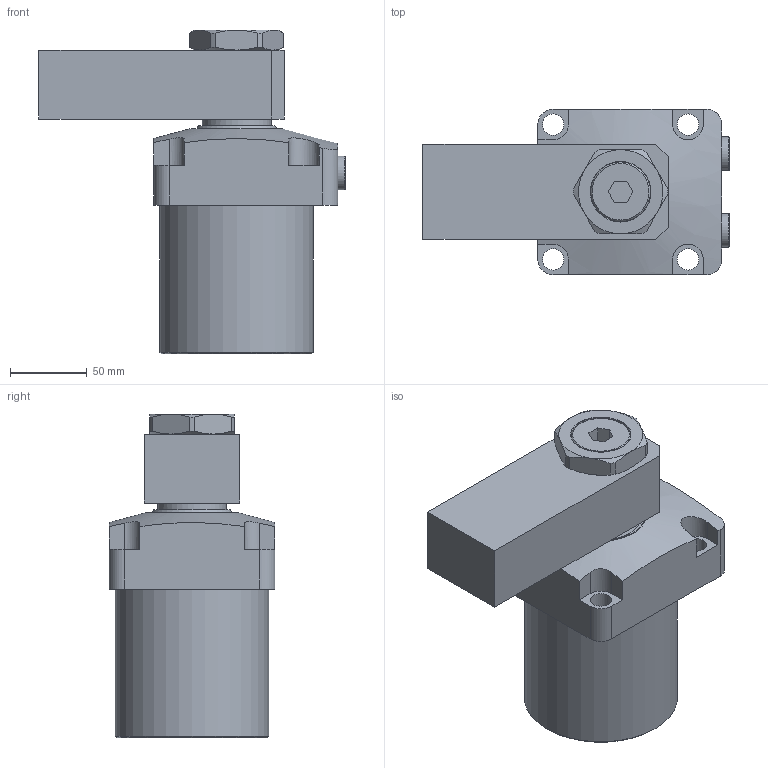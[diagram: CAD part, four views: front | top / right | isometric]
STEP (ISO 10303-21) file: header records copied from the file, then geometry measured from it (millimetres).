
FILE_DESCRIPTION(/* description */ (''),/* implementation_level */ '2;1');
FILE_NAME(/* name */ 'TRC25-L(带锥套-压板).stp',/* time_stamp */ '2025-07-21T11:31:51+08:00',/* author */ (''),/* organization */ (''),/* preprocessor_version */ 'ST-DEVELOPER v16.7',/* originating_system */ 'SIEMENS PLM Software NX 12.0',/* authorisation */ '');
FILE_SCHEMA (('AP203_CONFIGURATION_CONTROLLED_3D_DESIGN_OF_MECHANICAL_PARTS_AND_ASSEMBLIES_MIM_LF { 1 0 10303 403 2 1 2}'));
Length unit declared in the file: millimetre
Products named in the file (1): 123FE38B2C6q4me
Bounding box: 199.8 x 108 x 211.23 mm (x, y, z)
Volume: 1788813.8 mm3; surface area: 168642.6 mm2
Topology: 7 solids, 7 shells, 168 faces, 385 edges, 248 vertices
Faces by surface type: plane 82, cylinder 46, cone 33, torus 6, sphere 1
Full cylindrical faces by diameter (mm): 13.2 x2, 14 x4, 14.66 x2, 15 x2, 16.662 x4, 22 x2, 24.5 x2, 37 x1, 39 x2, 45 x2, 49 x1, 57 x1, 100 x1
Entity records: 5893 total; most frequent: CARTESIAN_POINT 1161, DIRECTION 716, ORIENTED_EDGE 654, EDGE_CURVE 327, AXIS2_PLACEMENT_3D 287, EDGE_LOOP 241, VERTEX_POINT 236, ADVANCED_FACE 167
